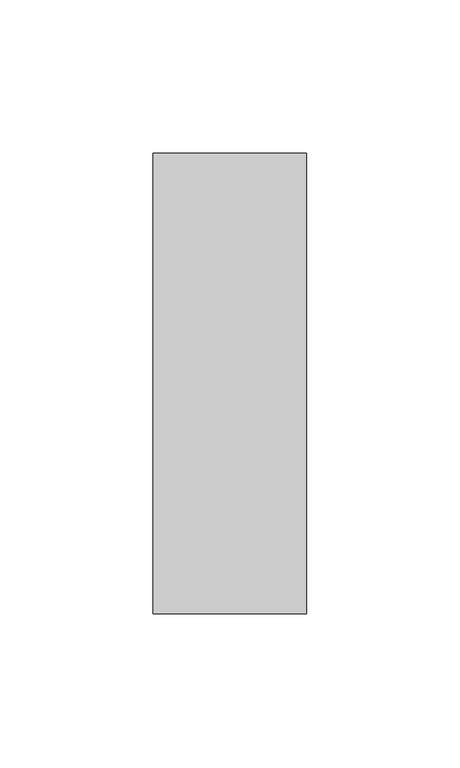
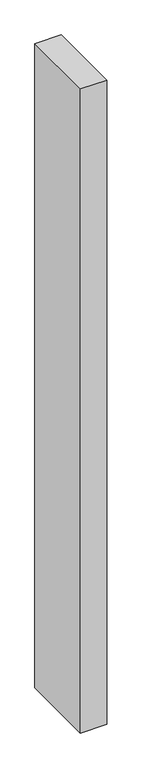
"""IFC4 building model written with IfcOpenShell, lengths in millimetres: member geometry, Прямоугольный импост : 50 x 150 мм."""

from ifc_helpers import new_model, si_unit, frame, origin, place, context, project, spatial, polyline, outline, extrude, source, transform, mapped, element, save


def member_9f7b02a4(model_context):
    return source(origin(), model_context, "Body", "SweptSolid", [
        extrude(outline(polyline([(25.0, 75.0), (25.0, -75.0), (-25.0, -75.0), (-25.0, 75.0), (25.0, 75.0)])), frame((0.0, 0.0, -1297.3287019), z_axis=(0.0, 0.0, 1.0), x_axis=(1.0, 0.0, 0.0)), (0.0, 0.0, 1.0), 1297.3287019),
    ])


if __name__ == "__main__":
    model = new_model("IFC4")
    model_context = context("Model", 3, world=origin())
    ifc_project = project(units=[si_unit("LENGTHUNIT", "METRE", prefix="MILLI")], contexts=[model_context])
    site = spatial("IfcSite", under=ifc_project)
    building = spatial("IfcBuilding", under=site)
    placement = place(None, origin())
    member_shape = member_9f7b02a4(model_context)
    element("IfcMember", 1, ObjectType="Прямоугольный импост : 50 x 150 мм", at=placement, inside=building, context=model_context, shape_type="MappedRepresentation", body=[
        mapped(member_shape, transform((0.0, 0.0, 0.0), x_axis=(1.0, 0.0, 0.0), y_axis=(0.0, 1.0, 0.0), z_axis=(0.0, 0.0, 1.0))),
    ])
    save(model, "model.ifc")
